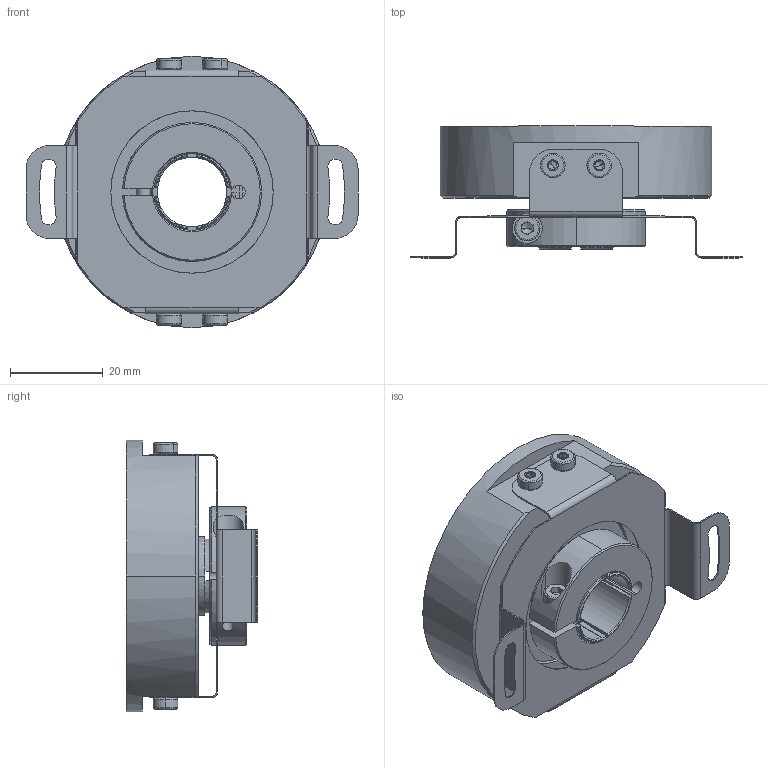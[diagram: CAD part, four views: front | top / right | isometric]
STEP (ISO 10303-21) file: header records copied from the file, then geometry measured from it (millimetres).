
FILE_DESCRIPTION (( 'STEP AP214' ), '1' );
FILE_NAME ('drawing-ucd-hfps-q5b-n.STEP', '2017-05-17T09:18:31', ( '' ), ( '' ), 'SwSTEP 2.0', 'SolidWorks 2017', '' );
FILE_SCHEMA (( 'AUTOMOTIVE_DESIGN' ));
Length unit declared in the file: millimetre
Products named in the file (1): drawing-ucd-hfps-q5b-n
Bounding box: 71.57 x 28.4 x 58.5 mm (x, y, z)
Volume: 39121.4 mm3; surface area: 29804.6 mm2
Topology: 24 solids, 24 shells, 1044 faces, 2487 edges, 1483 vertices
Faces by surface type: cone 345, cylinder 263, plane 256, bspline 136, torus 44
Entity records: 48110 total; most frequent: CARTESIAN_POINT 12868, DIRECTION 4917, ORIENTED_EDGE 4874, EDGE_CURVE 2437, AXIS2_PLACEMENT_3D 1919, VERTEX_POINT 1483, EDGE_LOOP 1126, VECTOR 1079
